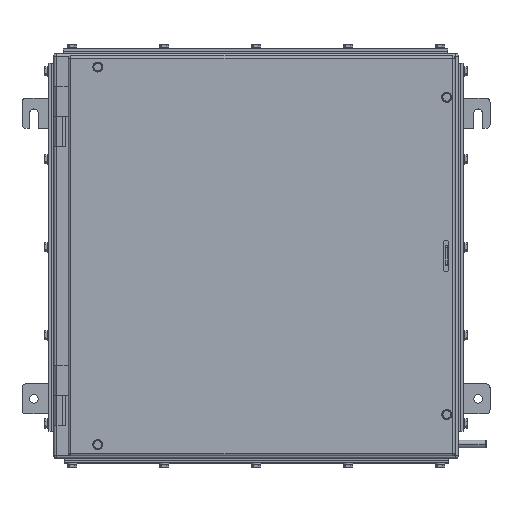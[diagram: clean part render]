
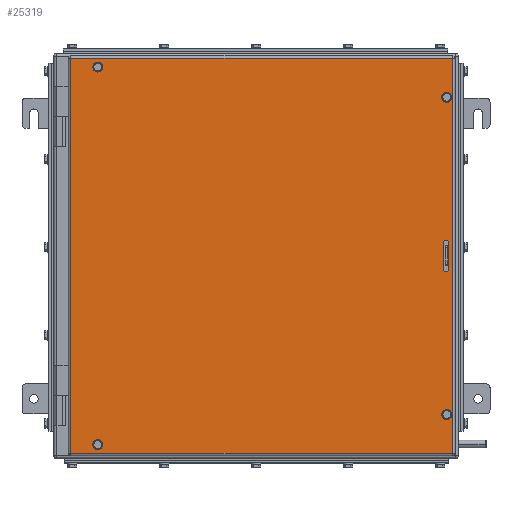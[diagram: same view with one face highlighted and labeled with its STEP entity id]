
A CAD part, top view. The second image highlights one B-rep face of the part: STEP entity #25319.
In plain terms, the highlighted planar face has unit normal (0, 0, 1).
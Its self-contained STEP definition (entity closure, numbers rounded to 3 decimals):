
#66 = DIRECTION ( 'NONE',  ( 0., 0., 1. ) ) ;
#317 = EDGE_CURVE ( 'NONE', #11850, #5299, #23544, .T. ) ;
#449 = EDGE_CURVE ( 'NONE', #2755, #20636, #18768, .T. ) ;
#463 = ORIENTED_EDGE ( 'NONE', *, *, #20885, .F. ) ;
#778 = ORIENTED_EDGE ( 'NONE', *, *, #449, .F. ) ;
#801 = DIRECTION ( 'NONE',  ( 0., -1., 0. ) ) ;
#894 = VERTEX_POINT ( 'NONE', #11430 ) ;
#1193 = DIRECTION ( 'NONE',  ( 1., 0., 0. ) ) ;
#1249 = ORIENTED_EDGE ( 'NONE', *, *, #17232, .F. ) ;
#1269 = DIRECTION ( 'NONE',  ( 1., 0., 0. ) ) ;
#1376 = ORIENTED_EDGE ( 'NONE', *, *, #317, .F. ) ;
#1682 = VERTEX_POINT ( 'NONE', #24258 ) ;
#1784 = VECTOR ( 'NONE', #801, 1000. ) ;
#1851 = CARTESIAN_POINT ( 'NONE',  ( 495., 249., 18. ) ) ;
#1934 = LINE ( 'NONE', #4114, #21062 ) ;
#1963 = CARTESIAN_POINT ( 'NONE',  ( 483.5, 16.5, 18. ) ) ;
#2003 = CARTESIAN_POINT ( 'NONE',  ( 51.5, 238., 18. ) ) ;
#2478 = ORIENTED_EDGE ( 'NONE', *, *, #21988, .F. ) ;
#2508 = EDGE_CURVE ( 'NONE', #13483, #11381, #23595, .T. ) ;
#2755 = VERTEX_POINT ( 'NONE', #21667 ) ;
#2767 = AXIS2_PLACEMENT_3D ( 'NONE', #11848, #3470, #17951 ) ;
#2827 = EDGE_CURVE ( 'NONE', #16237, #21110, #10883, .T. ) ;
#3177 = DIRECTION ( 'NONE',  ( 0., 0., 1. ) ) ;
#3191 = CIRCLE ( 'NONE', #19635, 3.5 ) ;
#3243 = DIRECTION ( 'NONE',  ( 0., 0., 1. ) ) ;
#3470 = DIRECTION ( 'NONE',  ( 0., 0., 1. ) ) ;
#4114 = CARTESIAN_POINT ( 'NONE',  ( 490.5, 16.5, 18. ) ) ;
#4157 = DIRECTION ( 'NONE',  ( 1., 0., 0. ) ) ;
#4312 = EDGE_CURVE ( 'NONE', #5299, #11850, #19205, .T. ) ;
#4316 = VERTEX_POINT ( 'NONE', #1963 ) ;
#4319 = DIRECTION ( 'NONE',  ( 0., 0., 1. ) ) ;
#4531 = EDGE_CURVE ( 'NONE', #15785, #894, #20060, .T. ) ;
#4569 = EDGE_CURVE ( 'NONE', #1682, #6550, #25724, .T. ) ;
#4609 = ORIENTED_EDGE ( 'NONE', *, *, #2508, .T. ) ;
#4966 = CARTESIAN_POINT ( 'NONE',  ( 48., 238., 18. ) ) ;
#5004 = CARTESIAN_POINT ( 'NONE',  ( 14., 252., 18. ) ) ;
#5193 = AXIS2_PLACEMENT_3D ( 'NONE', #5512, #22203, #16078 ) ;
#5299 = VERTEX_POINT ( 'NONE', #11139 ) ;
#5512 = CARTESIAN_POINT ( 'NONE',  ( 498., 252., 18. ) ) ;
#5640 = DIRECTION ( 'NONE',  ( 0., -1., 0. ) ) ;
#5770 = EDGE_CURVE ( 'NONE', #20100, #13483, #10279, .T. ) ;
#5946 = EDGE_LOOP ( 'NONE', ( #10603, #9218 ) ) ;
#5987 = AXIS2_PLACEMENT_3D ( 'NONE', #6359, #14624, #22933 ) ;
#6359 = CARTESIAN_POINT ( 'NONE',  ( 487., 16.5, 18. ) ) ;
#6550 = VERTEX_POINT ( 'NONE', #8843 ) ;
#7358 = DIRECTION ( 'NONE',  ( 1., 0., 0. ) ) ;
#7462 = AXIS2_PLACEMENT_3D ( 'NONE', #18903, #66, #23134 ) ;
#7656 = CARTESIAN_POINT ( 'NONE',  ( 483.5, 16.5, 18. ) ) ;
#8185 = CARTESIAN_POINT ( 'NONE',  ( 488., 200., 18. ) ) ;
#8265 = EDGE_CURVE ( 'NONE', #16985, #20100, #12222, .T. ) ;
#8843 = CARTESIAN_POINT ( 'NONE',  ( 51.5, -238., 18. ) ) ;
#8852 = VECTOR ( 'NONE', #24303, 1000. ) ;
#8975 = AXIS2_PLACEMENT_3D ( 'NONE', #19608, #25986, #7358 ) ;
#9218 = ORIENTED_EDGE ( 'NONE', *, *, #13087, .F. ) ;
#9314 = VECTOR ( 'NONE', #9903, 1000. ) ;
#9428 = FACE_OUTER_BOUND ( 'NONE', #21074, .T. ) ;
#9526 = VECTOR ( 'NONE', #5640, 1000. ) ;
#9570 = FACE_BOUND ( 'NONE', #13073, .T. ) ;
#9903 = DIRECTION ( 'NONE',  ( 0., 1., 0. ) ) ;
#10279 = LINE ( 'NONE', #12197, #8852 ) ;
#10332 = DIRECTION ( 'NONE',  ( 1., 0., 0. ) ) ;
#10351 = AXIS2_PLACEMENT_3D ( 'NONE', #14592, #4319, #12578 ) ;
#10462 = CARTESIAN_POINT ( 'NONE',  ( 491.5, 200., 18. ) ) ;
#10603 = ORIENTED_EDGE ( 'NONE', *, *, #4531, .F. ) ;
#10624 = DIRECTION ( 'NONE',  ( 0., 0., 1. ) ) ;
#10632 = EDGE_CURVE ( 'NONE', #21110, #16237, #15979, .T. ) ;
#10751 = CARTESIAN_POINT ( 'NONE',  ( 498., -249., 18. ) ) ;
#10883 = CIRCLE ( 'NONE', #11732, 3.5 ) ;
#11139 = CARTESIAN_POINT ( 'NONE',  ( 491.5, -200., 18. ) ) ;
#11381 = VERTEX_POINT ( 'NONE', #19475 ) ;
#11418 = DIRECTION ( 'NONE',  ( 1., 0., 0. ) ) ;
#11430 = CARTESIAN_POINT ( 'NONE',  ( 44.5, 238., 18. ) ) ;
#11732 = AXIS2_PLACEMENT_3D ( 'NONE', #8185, #22739, #4157 ) ;
#11848 = CARTESIAN_POINT ( 'NONE',  ( 488., -200., 18. ) ) ;
#11850 = VERTEX_POINT ( 'NONE', #22648 ) ;
#12005 = FACE_BOUND ( 'NONE', #5946, .T. ) ;
#12197 = CARTESIAN_POINT ( 'NONE',  ( 498., 249., 18. ) ) ;
#12222 = LINE ( 'NONE', #20523, #9314 ) ;
#12578 = DIRECTION ( 'NONE',  ( 1., 0., 0. ) ) ;
#13073 = EDGE_LOOP ( 'NONE', ( #26106, #1376 ) ) ;
#13087 = EDGE_CURVE ( 'NONE', #894, #15785, #3191, .T. ) ;
#13093 = CARTESIAN_POINT ( 'NONE',  ( 48., -238., 18. ) ) ;
#13483 = VERTEX_POINT ( 'NONE', #23524 ) ;
#14522 = DIRECTION ( 'NONE',  ( 0., 1., 0. ) ) ;
#14592 = CARTESIAN_POINT ( 'NONE',  ( 488., 200., 18. ) ) ;
#14624 = DIRECTION ( 'NONE',  ( 0., 0., 1. ) ) ;
#14749 = ORIENTED_EDGE ( 'NONE', *, *, #22565, .T. ) ;
#15565 = EDGE_LOOP ( 'NONE', ( #25262, #17937 ) ) ;
#15785 = VERTEX_POINT ( 'NONE', #2003 ) ;
#15805 = FACE_BOUND ( 'NONE', #16733, .T. ) ;
#15979 = CIRCLE ( 'NONE', #10351, 3.5 ) ;
#16078 = DIRECTION ( 'NONE',  ( -1., 0., 0. ) ) ;
#16237 = VERTEX_POINT ( 'NONE', #10462 ) ;
#16733 = EDGE_LOOP ( 'NONE', ( #2478, #463, #1249, #778 ) ) ;
#16981 = VECTOR ( 'NONE', #10332, 1000. ) ;
#16985 = VERTEX_POINT ( 'NONE', #23795 ) ;
#17232 = EDGE_CURVE ( 'NONE', #20636, #22468, #1934, .T. ) ;
#17464 = ORIENTED_EDGE ( 'NONE', *, *, #8265, .T. ) ;
#17723 = FACE_BOUND ( 'NONE', #15565, .T. ) ;
#17937 = ORIENTED_EDGE ( 'NONE', *, *, #10632, .F. ) ;
#17951 = DIRECTION ( 'NONE',  ( 1., 0., 0. ) ) ;
#18479 = CARTESIAN_POINT ( 'NONE',  ( 484.5, 200., 18. ) ) ;
#18768 = CIRCLE ( 'NONE', #25727, 3.5 ) ;
#18903 = CARTESIAN_POINT ( 'NONE',  ( 488., -200., 18. ) ) ;
#19177 = CARTESIAN_POINT ( 'NONE',  ( 490.5, -16.5, 18. ) ) ;
#19205 = CIRCLE ( 'NONE', #2767, 3.5 ) ;
#19475 = CARTESIAN_POINT ( 'NONE',  ( 14., -249., 18. ) ) ;
#19608 = CARTESIAN_POINT ( 'NONE',  ( 48., -238., 18. ) ) ;
#19635 = AXIS2_PLACEMENT_3D ( 'NONE', #4966, #19847, #1269 ) ;
#19835 = CARTESIAN_POINT ( 'NONE',  ( 487., -16.5, 18. ) ) ;
#19847 = DIRECTION ( 'NONE',  ( 0., 0., 1. ) ) ;
#20060 = CIRCLE ( 'NONE', #23965, 3.5 ) ;
#20100 = VERTEX_POINT ( 'NONE', #1851 ) ;
#20300 = PLANE ( 'NONE',  #5193 ) ;
#20360 = EDGE_CURVE ( 'NONE', #6550, #1682, #21572, .T. ) ;
#20523 = CARTESIAN_POINT ( 'NONE',  ( 495., 252., 18. ) ) ;
#20636 = VERTEX_POINT ( 'NONE', #19177 ) ;
#20885 = EDGE_CURVE ( 'NONE', #22468, #4316, #25947, .T. ) ;
#20949 = AXIS2_PLACEMENT_3D ( 'NONE', #13093, #10624, #25452 ) ;
#21062 = VECTOR ( 'NONE', #14522, 1000. ) ;
#21074 = EDGE_LOOP ( 'NONE', ( #14749, #17464, #21405, #4609 ) ) ;
#21110 = VERTEX_POINT ( 'NONE', #18479 ) ;
#21405 = ORIENTED_EDGE ( 'NONE', *, *, #5770, .T. ) ;
#21572 = CIRCLE ( 'NONE', #8975, 3.5 ) ;
#21667 = CARTESIAN_POINT ( 'NONE',  ( 483.5, -16.5, 18. ) ) ;
#21815 = CARTESIAN_POINT ( 'NONE',  ( 48., 238., 18. ) ) ;
#21988 = EDGE_CURVE ( 'NONE', #4316, #2755, #26297, .T. ) ;
#22141 = ORIENTED_EDGE ( 'NONE', *, *, #4569, .F. ) ;
#22203 = DIRECTION ( 'NONE',  ( 0., 0., -1. ) ) ;
#22300 = CARTESIAN_POINT ( 'NONE',  ( 490.5, 16.5, 18. ) ) ;
#22468 = VERTEX_POINT ( 'NONE', #22300 ) ;
#22565 = EDGE_CURVE ( 'NONE', #11381, #16985, #25309, .T. ) ;
#22648 = CARTESIAN_POINT ( 'NONE',  ( 484.5, -200., 18. ) ) ;
#22739 = DIRECTION ( 'NONE',  ( 0., 0., 1. ) ) ;
#22933 = DIRECTION ( 'NONE',  ( 1., 0., 0. ) ) ;
#23134 = DIRECTION ( 'NONE',  ( 1., 0., 0. ) ) ;
#23524 = CARTESIAN_POINT ( 'NONE',  ( 14., 249., 18. ) ) ;
#23544 = CIRCLE ( 'NONE', #7462, 3.5 ) ;
#23595 = LINE ( 'NONE', #5004, #1784 ) ;
#23795 = CARTESIAN_POINT ( 'NONE',  ( 495., -249., 18. ) ) ;
#23850 = FACE_BOUND ( 'NONE', #25842, .T. ) ;
#23965 = AXIS2_PLACEMENT_3D ( 'NONE', #21815, #3243, #1193 ) ;
#24258 = CARTESIAN_POINT ( 'NONE',  ( 44.5, -238., 18. ) ) ;
#24303 = DIRECTION ( 'NONE',  ( -1., 0., 0. ) ) ;
#25262 = ORIENTED_EDGE ( 'NONE', *, *, #2827, .F. ) ;
#25309 = LINE ( 'NONE', #10751, #16981 ) ;
#25319 = ADVANCED_FACE ( 'NONE', ( #15805, #23850, #9570, #17723, #12005, #9428 ), #20300, .F. ) ;
#25452 = DIRECTION ( 'NONE',  ( 1., 0., 0. ) ) ;
#25724 = CIRCLE ( 'NONE', #20949, 3.5 ) ;
#25727 = AXIS2_PLACEMENT_3D ( 'NONE', #19835, #3177, #11418 ) ;
#25842 = EDGE_LOOP ( 'NONE', ( #26079, #22141 ) ) ;
#25947 = CIRCLE ( 'NONE', #5987, 3.5 ) ;
#25986 = DIRECTION ( 'NONE',  ( 0., 0., 1. ) ) ;
#26079 = ORIENTED_EDGE ( 'NONE', *, *, #20360, .F. ) ;
#26106 = ORIENTED_EDGE ( 'NONE', *, *, #4312, .F. ) ;
#26297 = LINE ( 'NONE', #7656, #9526 ) ;
